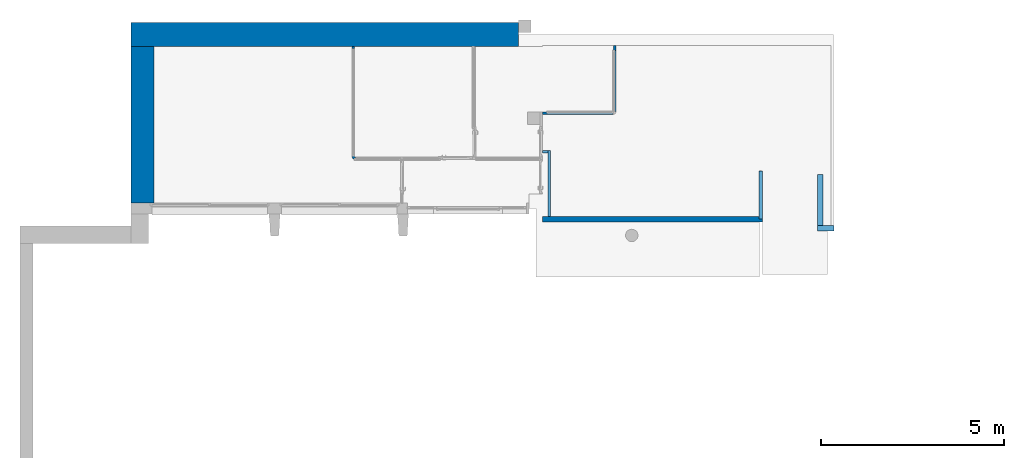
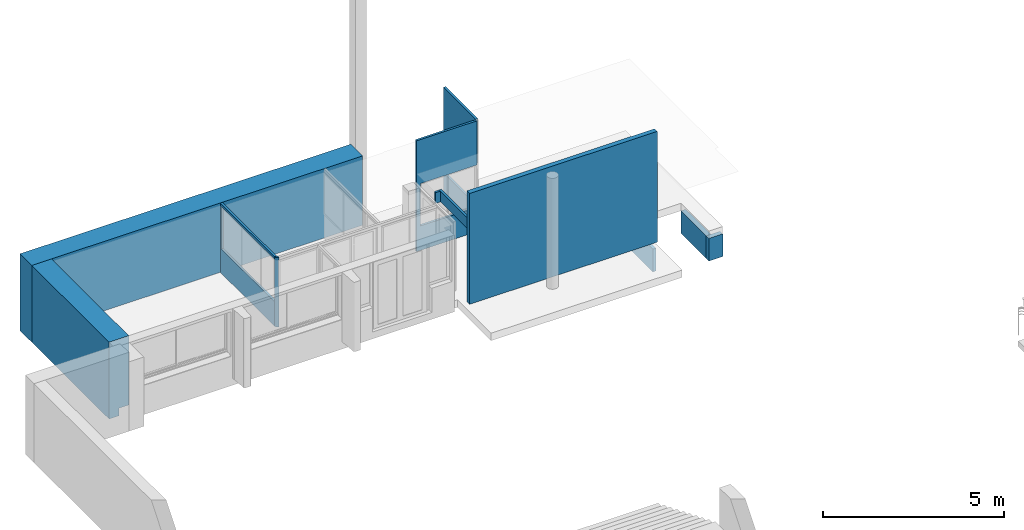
# One storey, part 6 of 19: 12 walls, 3 openings.
"""IFC4 building model written with IfcOpenShell, lengths in metres."""

from ifc_helpers import new_model, entity, si_unit, converted_unit, derived_unit, direction, frame, origin, place, context, subcontext, project, spatial, indexed_curve, outline, extrude, polygons, material, layer, layer_set, type_object, element, save


model = new_model("IFC4")

# Units and contexts
model_context = context("Model", 3, precision=1e-05, world=origin(), true_north=direction((6.12303176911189e-17, 1.0)))
body_context = subcontext(model_context, "Body", "Model", "MODEL_VIEW")
ifc_project = project(units=[si_unit("LENGTHUNIT", "METRE"), si_unit("AREAUNIT", "SQUARE_METRE"), si_unit("VOLUMEUNIT", "CUBIC_METRE"), converted_unit("PLANEANGLEUNIT", "DEGREE", entity("IfcRatioMeasure", 0.0174532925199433), si_unit("PLANEANGLEUNIT", "RADIAN"), dimensions=[0, 0, 0, 0, 0, 0, 0]), si_unit("MASSUNIT", "GRAM", prefix="KILO"), derived_unit("MASSDENSITYUNIT", [(si_unit("MASSUNIT", "GRAM", prefix="KILO"), 1), (si_unit("LENGTHUNIT", "METRE"), -3)]), derived_unit("MOMENTOFINERTIAUNIT", [(si_unit("LENGTHUNIT", "METRE"), 4)]), si_unit("TIMEUNIT", "SECOND"), si_unit("FREQUENCYUNIT", "HERTZ"), si_unit("THERMODYNAMICTEMPERATUREUNIT", "DEGREE_CELSIUS"), derived_unit("THERMALTRANSMITTANCEUNIT", [(si_unit("MASSUNIT", "GRAM", prefix="KILO"), 1), (si_unit("THERMODYNAMICTEMPERATUREUNIT", "KELVIN"), -1), (si_unit("TIMEUNIT", "SECOND"), -3)]), derived_unit("VOLUMETRICFLOWRATEUNIT", [(si_unit("LENGTHUNIT", "METRE"), 3), (si_unit("TIMEUNIT", "SECOND"), -1)]), si_unit("ELECTRICCURRENTUNIT", "AMPERE"), si_unit("ELECTRICVOLTAGEUNIT", "VOLT"), si_unit("POWERUNIT", "WATT"), si_unit("FORCEUNIT", "NEWTON", prefix="KILO"), si_unit("ILLUMINANCEUNIT", "LUX"), si_unit("LUMINOUSFLUXUNIT", "LUMEN"), si_unit("LUMINOUSINTENSITYUNIT", "CANDELA"), derived_unit("USERDEFINED", [(si_unit("MASSUNIT", "GRAM", prefix="KILO"), -1), (si_unit("LENGTHUNIT", "METRE"), -2), (si_unit("TIMEUNIT", "SECOND"), 3), (si_unit("LUMINOUSFLUXUNIT", "LUMEN"), 1)]), derived_unit("LINEARVELOCITYUNIT", [(si_unit("LENGTHUNIT", "METRE"), 1), (si_unit("TIMEUNIT", "SECOND"), -1)]), si_unit("PRESSUREUNIT", "PASCAL"), derived_unit("USERDEFINED", [(si_unit("LENGTHUNIT", "METRE"), -2), (si_unit("MASSUNIT", "GRAM", prefix="KILO"), 1), (si_unit("TIMEUNIT", "SECOND"), -2)]), derived_unit("LINEARFORCEUNIT", [(si_unit("MASSUNIT", "GRAM", prefix="KILO"), 1), (si_unit("LENGTHUNIT", "METRE"), 1), (si_unit("TIMEUNIT", "SECOND"), -2), (si_unit("LENGTHUNIT", "METRE"), -1)]), derived_unit("PLANARFORCEUNIT", [(si_unit("MASSUNIT", "GRAM", prefix="KILO"), 1), (si_unit("LENGTHUNIT", "METRE"), 1), (si_unit("TIMEUNIT", "SECOND"), -2), (si_unit("LENGTHUNIT", "METRE"), -2)])], contexts=[model_context])

# Site, building, storey
site_placement = place(None, origin())
site = spatial("IfcSite", under=ifc_project, at=site_placement, Name="Default", CompositionType="ELEMENT")
building_placement = place(site_placement, origin())
building = spatial("IfcBuilding", under=site, at=building_placement, Name="HOTEL CONSULAIRE BOULOGNE SUR MER", CompositionType="ELEMENT")
storey_placement = place(building_placement, frame((0.0, 0.0, -4.01003075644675)))
storey = spatial("IfcBuildingStorey", under=building, at=storey_placement, Name="SS2", CompositionType="ELEMENT", Elevation=-4.01003075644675)

# Wall, opening
ifc_material = material(Name="Mur par défaut", Category="Divers")
ifc_layer_1 = layer(ifc_material, 0.07, Name="Mur par défaut", Category="Divers")
ifc_layer_set_1 = layer_set([ifc_layer_1], Name="Mur de base:Générique - Int. 70 mm")
wall_type_1 = type_object("IfcWallType", Name="Mur de base:Générique - Int. 70 mm", PredefinedType="NOTDEFINED", material=ifc_layer_set_1)
wall_1_placement = place(storey_placement, frame((-18.6387787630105, -13.45532416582, 0.0), z_axis=(0.0, 0.0, 1.0), x_axis=(0.0, 1.0, 0.0)))
wall_1 = element("IfcWall", 1, at=wall_1_placement, inside=storey, type_object=wall_type_1, material=ifc_layer_set_1, Name="Mur de base:Générique - Int. 70 mm", ObjectType="Mur de base:Générique - Int. 70 mm", PredefinedType="NOTDEFINED", context=body_context, shape_type="Tessellation", body=[
    polygons([(0.0, -0.0349999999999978, 2.34113097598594), (0.0, 0.0350000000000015, 2.34113097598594), (0.0, 0.0350000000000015, 2.25353263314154), (0.0, -0.0349999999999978, 2.25353263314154), (0.0, -0.0349999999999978, 0.0), (2.98900000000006, -0.034999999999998, 0.0), (2.98900000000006, -0.034999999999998, 2.34113097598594), (2.93084809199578, -0.034999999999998, 2.25353263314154), (2.93084809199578, -0.034999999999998, 0.824265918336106), (0.0, -0.0349999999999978, 0.824265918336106), (2.98900000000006, 0.0350000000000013, 0.0), (0.0, 0.0350000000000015, 0.0), (0.0, 0.0350000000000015, 0.824265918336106), (2.93084809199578, 0.0350000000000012, 0.824265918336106), (2.93084809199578, 0.0350000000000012, 2.25353263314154), (2.98900000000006, 0.0350000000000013, 2.34113097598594)], [[[4, 1, 2, 3]], [[5, 10, 13, 12]], [[8, 15, 14, 9]], [[10, 5, 6, 7, 1, 4, 8, 9]], [[11, 12, 13, 14, 15, 3, 2, 16]], [[6, 5, 12, 11]], [[4, 3, 15, 8]], [[1, 7, 16, 2]], [[9, 14, 13, 10]], [[7, 6, 11, 16]]], closed=True),
])
opening_1_placement = place(wall_1_placement, frame((0.0, 0.1874, 0.824265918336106)))
element("IfcOpeningElement", 2, at=opening_1_placement, cuts=wall_1, Name="Mur de base:Générique - Int. 70 mm", ObjectType="Opening", PredefinedType="OPENING", context=body_context, shape_type="SweptSolid", body=[
    extrude(outline(indexed_curve([(-0.714633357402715, -1.46542404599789), (0.714633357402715, -1.46542404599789), (0.714633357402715, 1.46542404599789), (-0.714633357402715, 1.46542404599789), (-0.714633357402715, -1.46542404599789)], self_intersect=False)), frame((1.46542404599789, -0.374799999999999, 0.714633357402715), z_axis=(0.0, 1.0, 0.0), x_axis=(0.0, 0.0, 1.0)), (0.0, 0.0, 1.0), 0.374799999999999),
])

wall_2_placement = place(storey_placement, frame((-11.5089610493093, -12.2361492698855, 0.0), z_axis=(0.0, 0.0, 1.0), x_axis=(0.0, 1.0, 0.0)))
wall_2 = element("IfcWall", 3, at=wall_2_placement, inside=storey, type_object=wall_type_1, material=ifc_layer_set_1, Name="Mur de base:Générique - Int. 70 mm", ObjectType="Mur de base:Générique - Int. 70 mm", PredefinedType="NOTDEFINED", context=body_context, shape_type="Tessellation", body=[
    polygons([(0.0, 0.0350000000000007, 0.0), (0.0, -0.0349999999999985, 0.0), (0.0, -0.0349999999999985, 0.859438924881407), (0.0, 0.0350000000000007, 0.859438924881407), (1.78982510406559, -0.0349999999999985, 0.0), (1.78982510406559, -0.0349999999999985, 3.74003075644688), (0.0, -0.0349999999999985, 3.74003075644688), (0.0, -0.0349999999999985, 2.25353263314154), (1.663152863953, -0.0349999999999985, 2.25353263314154), (1.663152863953, -0.0349999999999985, 0.859438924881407), (1.78982510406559, 0.0350000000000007, 0.0), (1.663152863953, 0.0350000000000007, 0.859438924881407), (1.663152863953, 0.0350000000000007, 2.25353263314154), (0.0, 0.0350000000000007, 2.25353263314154), (0.0, 0.0350000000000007, 3.74003075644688), (1.78982510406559, 0.0350000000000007, 3.74003075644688)], [[[2, 3, 4, 1]], [[8, 7, 15, 14]], [[9, 13, 12, 10]], [[3, 2, 5, 6, 7, 8, 9, 10]], [[11, 1, 4, 12, 13, 14, 15, 16]], [[5, 2, 1, 11]], [[8, 14, 13, 9]], [[5, 11, 16, 6]], [[10, 12, 4, 3]], [[6, 16, 15, 7]]], closed=True),
])
opening_2_placement = place(wall_2_placement, frame((0.0, 0.187400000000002, 0.859438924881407)))
element("IfcOpeningElement", 4, at=opening_2_placement, cuts=wall_2, Name="Mur de base:Générique - Int. 70 mm", ObjectType="Opening", PredefinedType="OPENING", context=body_context, shape_type="SweptSolid", body=[
    extrude(outline(indexed_curve([(-0.697046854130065, -0.831576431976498), (0.697046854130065, -0.831576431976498), (0.697046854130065, 0.8315764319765), (-0.697046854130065, 0.8315764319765), (-0.697046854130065, -0.831576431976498)], self_intersect=False)), frame((0.8315764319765, -0.374800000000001, 0.697046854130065), z_axis=(0.0, 1.0, 0.0), x_axis=(0.0, 0.0, 1.0)), (0.0, 0.0, 1.0), 0.374799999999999),
])

wall_3_placement = place(storey_placement, frame((-13.4753496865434, -12.2801492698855, 0.0)))
wall_3 = element("IfcWall", 5, at=wall_3_placement, inside=storey, type_object=wall_type_1, material=ifc_layer_set_1, Name="Mur de base:Générique - Int. 70 mm", ObjectType="Mur de base:Générique - Int. 70 mm", PredefinedType="NOTDEFINED", context=body_context, shape_type="Tessellation", body=[
    polygons([(1.92238863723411, 0.0350000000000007, 3.74003075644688), (1.92238863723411, -0.0349999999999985, 3.74003075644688), (1.92238863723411, -0.0349999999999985, 2.25353263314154), (1.92238863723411, 0.0350000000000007, 2.25353263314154), (3.63446320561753e-16, -0.0349999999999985, 0.0), (1.92238863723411, -0.0349999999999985, 0.0), (1.92238863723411, -0.0349999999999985, 0.824265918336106), (0.117369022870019, -0.0349999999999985, 0.824265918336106), (0.117369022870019, -0.0349999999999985, 2.25353263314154), (3.63446320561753e-16, -0.0349999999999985, 3.74003075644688), (1.92238863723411, 0.0350000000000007, 0.0), (1.2748752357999e-16, 0.0350000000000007, 0.0), (1.2748752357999e-16, 0.0350000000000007, 2.21931211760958), (1.2748752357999e-16, 0.0350000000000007, 3.74003075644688), (0.117369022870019, 0.0350000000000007, 2.25353263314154), (0.117369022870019, 0.0350000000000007, 0.824265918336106), (1.92238863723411, 0.0350000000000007, 0.824265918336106)], [[[2, 3, 4, 1]], [[7, 6, 11, 17]], [[8, 16, 15, 9]], [[5, 6, 7, 8, 9, 3, 2, 10]], [[17, 11, 12, 13, 14, 1, 4, 15, 16]], [[6, 5, 12, 11]], [[9, 15, 4, 3]], [[8, 7, 17, 16]], [[1, 14, 10, 2]], [[13, 12, 5, 10, 14]]], closed=True),
])
opening_3_placement = place(wall_3_placement, frame((0.117369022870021, -0.187400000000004, 0.824265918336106)))
element("IfcOpeningElement", 6, at=opening_3_placement, cuts=wall_3, Name="Mur de base:Générique - Int. 70 mm", ObjectType="Opening", PredefinedType="OPENING", context=body_context, shape_type="SweptSolid", body=[
    extrude(outline(indexed_curve([(-0.714633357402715, -0.902509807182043), (0.714633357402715, -0.902509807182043), (0.714633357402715, 0.902509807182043), (-0.714633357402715, 0.902509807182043), (-0.714633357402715, -0.902509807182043)], self_intersect=False)), frame((0.902509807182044, 0.0, 0.714633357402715), z_axis=(0.0, 1.0, 0.0), x_axis=(0.0, 0.0, 1.0)), (0.0, 0.0, 1.0), 0.374799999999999),
])

# Walls
wall_4_placement = place(storey_placement, frame((-18.5797787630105, -13.51432416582, 0.0)))
element("IfcWall", 7, at=wall_4_placement, inside=storey, type_object=wall_type_1, material=ifc_layer_set_1, Name="Mur de base:Générique - Int. 70 mm", ObjectType="Mur de base:Générique - Int. 70 mm", PredefinedType="NOTDEFINED", context=body_context, shape_type="SweptSolid", body=[
    extrude(outline(indexed_curve([(-0.0940000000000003, 0.0589999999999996), (-0.0928427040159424, 0.0442951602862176), (-0.0893993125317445, 0.0299524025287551), (-0.0837546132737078, 0.0163248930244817), (-0.0760475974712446, 0.00374818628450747), (-0.0664680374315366, -0.00746803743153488), (-0.0552518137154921, -0.0170475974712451), (-0.0426751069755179, -0.024754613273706), (-0.0290475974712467, -0.0303993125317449), (-0.014704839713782, -0.0338427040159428), (0.0, -0.0350000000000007), (0.0, 0.0349999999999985), (-0.00375442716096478, 0.0352954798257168), (-0.00741640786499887, 0.0361746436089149), (-0.0108957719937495, 0.0376158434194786), (-0.0141068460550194, 0.0395835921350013), (-0.0169705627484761, 0.0420294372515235), (-0.0194164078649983, 0.0448931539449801), (-0.0213841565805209, 0.0481042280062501), (-0.0228253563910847, 0.0515835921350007), (-0.0237045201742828, 0.0552455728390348), (-0.024000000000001, 0.0589999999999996), (-0.0940000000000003, 0.0589999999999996)], self_intersect=False)), origin(), (0.0, 0.0, 1.0), 2.34113097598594),
])
ifc_layer_2 = layer(ifc_material, 0.07, Name="Mur par défaut", Category="Divers")
ifc_layer_set_2 = layer_set([ifc_layer_2], Name="Mur de base:Int. Plâtre 70 mm")
wall_type_2 = type_object("IfcWallType", Name="Mur de base:Int. Plâtre 70 mm", PredefinedType="NOTDEFINED", material=ifc_layer_set_2)
wall_5_placement = place(storey_placement, frame((-13.2893092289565, -15.0965756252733, 2.26703524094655), z_axis=(0.0, 0.0, 1.0), x_axis=(0.0, 1.0, 0.0)))
element("IfcWall", 8, at=wall_5_placement, inside=storey, type_object=wall_type_2, material=ifc_layer_set_2, Name="Mur de base:Int. Plâtre 70 mm", ObjectType="Mur de base:Int. Plâtre 70 mm", PredefinedType="NOTDEFINED", context=body_context, shape_type="SweptSolid", body=[
    extrude(outline(indexed_curve([(1.79674972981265, 0.0350000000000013), (-5.33217416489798e-17, 0.0350000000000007), (5.33217416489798e-17, -0.0350000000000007), (1.79674972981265, -0.0350000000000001), (1.79674972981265, 0.0350000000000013)], self_intersect=False)), origin(), (0.0, 0.0, 1.0), 0.360990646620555),
])
wall_6_placement = place(storey_placement, frame((-13.3243092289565, -13.3348258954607, 2.26703524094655), z_axis=(0.0, 0.0, 1.0), x_axis=(-1.0, 0.0, 0.0)))
element("IfcWall", 9, at=wall_6_placement, inside=storey, type_object=wall_type_2, material=ifc_layer_set_2, Name="Mur de base:Int. Plâtre 70 mm", ObjectType="Mur de base:Int. Plâtre 70 mm", PredefinedType="NOTDEFINED", context=body_context, shape_type="SweptSolid", body=[
    extrude(outline(indexed_curve([(0.151040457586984, 0.0350000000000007), (0.0, 0.0350000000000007), (0.0, -0.0350000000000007), (0.151040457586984, -0.0350000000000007), (0.151040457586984, 0.0350000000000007)], self_intersect=False)), origin(), (0.0, 0.0, 1.0), 0.360990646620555),
])
ifc_layer_3 = layer(ifc_material, 0.1, Name="Mur par défaut", Category="Divers")
ifc_layer_set_3 = layer_set([ifc_layer_3], Name="Mur de base:Générique - Int. 100 mm")
wall_type_3 = type_object("IfcWallType", Name="Mur de base:Générique - Int. 100 mm", PredefinedType="NOTDEFINED", material=ifc_layer_set_3)
wall_7_placement = place(storey_placement, frame((-7.53498856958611, -13.8545756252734, -1.01340592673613), z_axis=(0.0, 0.0, 1.0), x_axis=(0.0, -1.0, 0.0)))
element("IfcWall", 10, at=wall_7_placement, inside=storey, type_object=wall_type_3, material=ifc_layer_set_3, Name="Mur de base:Générique - Int. 100 mm", ObjectType="Mur de base:Générique - Int. 100 mm", PredefinedType="NOTDEFINED", context=body_context, shape_type="SweptSolid", body=[
    extrude(outline(indexed_curve([(1.317, 0.0500000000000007), (-8.71873695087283e-17, 0.0500000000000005), (8.71873695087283e-17, -0.0500000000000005), (1.317, -0.0500000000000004), (1.317, 0.0500000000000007)], self_intersect=False)), origin(), (0.0, 0.0, 1.0), 0.763405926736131),
])
ifc_layer_4 = layer(ifc_material, 0.15, Name="Mur par défaut", Category="Divers")
ifc_layer_set_4 = layer_set([ifc_layer_4], Name="Mur de base:Générique - Int. 150 mm")
wall_type_4 = type_object("IfcWallType", Name="Mur de base:Générique - Int. 150 mm", PredefinedType="NOTDEFINED", material=ifc_layer_set_4)
wall_8_placement = place(storey_placement, frame((-13.4753496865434, -15.1715756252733, 0.0)))
element("IfcWall", 11, at=wall_8_placement, inside=storey, type_object=wall_type_4, material=ifc_layer_set_4, Name="Mur de base:Générique - Int. 150 mm", ObjectType="Mur de base:Générique - Int. 150 mm", PredefinedType="NOTDEFINED", context=body_context, shape_type="SweptSolid", body=[
    extrude(outline(indexed_curve([(5.99036111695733, 0.0750000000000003), (-2.44037145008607e-16, 0.0750000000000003), (2.44037145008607e-16, -0.0750000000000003), (5.99036111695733, -0.0750000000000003), (5.99036111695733, 0.0750000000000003)], self_intersect=False)), origin(), (0.0, 0.0, 1.0), 3.74003075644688),
])
wall_9_placement = place(storey_placement, frame((-5.98241197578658, -15.4202021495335, -1.01340592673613)))
element("IfcWall", 12, at=wall_9_placement, inside=storey, type_object=wall_type_4, material=ifc_layer_set_4, Name="Mur de base:Générique - Int. 150 mm", ObjectType="Mur de base:Générique - Int. 150 mm", PredefinedType="NOTDEFINED", context=body_context, shape_type="SweptSolid", body=[
    extrude(outline(indexed_curve([(0.445423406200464, 0.0750000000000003), (0.0, 0.0750000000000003), (0.0, -0.0750000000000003), (0.445423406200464, -0.0750000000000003), (0.445423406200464, 0.0750000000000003)], self_intersect=False)), origin(), (0.0, 0.0, 1.0), 0.763405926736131),
])
wall_10_placement = place(storey_placement, frame((-5.90741197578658, -13.9492021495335, -1.01340592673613), z_axis=(0.0, 0.0, 1.0), x_axis=(0.0, -1.0, 0.0)))
element("IfcWall", 13, at=wall_10_placement, inside=storey, type_object=wall_type_4, material=ifc_layer_set_4, Name="Mur de base:Générique - Int. 150 mm", ObjectType="Mur de base:Générique - Int. 150 mm", PredefinedType="NOTDEFINED", context=body_context, shape_type="SweptSolid", body=[
    extrude(outline(indexed_curve([(1.396, 0.0750000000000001), (-1.06477006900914e-16, 0.0750000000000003), (1.06477006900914e-16, -0.0750000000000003), (1.396, -0.0750000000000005), (1.396, 0.0750000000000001)], self_intersect=False)), origin(), (0.0, 0.0, 1.0), 0.763405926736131),
])
ifc_layer_5 = layer(ifc_material, 0.65, Name="Mur par défaut", Category="Divers")
ifc_layer_set_5 = layer_set([ifc_layer_5], Name="Mur de base:Générique - Ext.650")
wall_type_5 = type_object("IfcWallType", Name="Mur de base:Générique - Ext.650", PredefinedType="NOTDEFINED", material=ifc_layer_set_5)
wall_11_placement = place(storey_placement, frame((-24.6922313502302, -10.1413241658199, -0.25)))
element("IfcWall", 14, at=wall_11_placement, inside=storey, type_object=wall_type_5, material=ifc_layer_set_5, Name="Mur de base:Générique - Ext.650", ObjectType="Mur de base:Générique - Ext.650", PredefinedType="NOTDEFINED", context=body_context, shape_type="Tessellation", body=[
    polygons([(10.5582506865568, -0.325, 2.59114570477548), (9.39003696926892, -0.325, 2.59114570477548), (9.32003696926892, -0.325, 2.59114570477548), (6.08845258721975, -0.325, 2.59114570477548), (6.01845258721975, -0.325, 2.59114570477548), (0.630000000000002, -0.325, 2.59114570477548), (2.46291989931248e-15, -0.325, 2.59114570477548), (2.46291989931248e-15, -0.325, 0.0), (0.315000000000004, -0.325000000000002, 0.0), (0.315, -0.325000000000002, 0.25), (0.630000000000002, -0.325, 0.25), (6.01845258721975, -0.325, 0.25), (6.08845258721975, -0.325, 0.25), (9.32003696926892, -0.325, 0.25), (9.39003696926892, -0.325, 0.25), (10.5582506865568, -0.325, 0.25), (10.5582506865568, 0.325, 0.0), (-1.11048605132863e-16, 0.325, 0.0), (-1.11048605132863e-16, 0.325, 2.59114570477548), (10.5582506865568, 0.325, 2.59114570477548), (10.5582506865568, 0.056691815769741, 0.0), (10.5582506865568, -2.16573425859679e-15, 0.0), (0.315000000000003, -2.16573425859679e-15, 0.0), (10.5582506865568, -2.16573425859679e-15, 0.25), (0.315000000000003, -2.16573425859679e-15, 0.25)], [[[8, 9, 10, 11, 12, 13, 14, 15, 16, 1, 2, 3, 4, 5, 6, 7]], [[25, 23, 22, 24]], [[20, 17, 18, 19]], [[8, 18, 17, 21, 22, 23, 9]], [[15, 14, 13, 12, 11, 10, 25, 24, 16]], [[1, 16, 24, 22, 21, 17, 20]], [[10, 9, 23, 25]], [[2, 1, 20, 19, 7, 6, 5, 4, 3]], [[19, 18, 8, 7]]], closed=True),
])
ifc_layer_6 = layer(ifc_material, 0.63, Name="Mur par défaut", Category="Divers")
ifc_layer_set_6 = layer_set([ifc_layer_6], Name="Mur de base:Générique - Ext.630")
wall_type_6 = type_object("IfcWallType", Name="Mur de base:Générique - Ext.630", PredefinedType="NOTDEFINED", material=ifc_layer_set_6)
wall_12_placement = place(storey_placement, frame((-24.3772313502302, -14.7375756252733, -0.25), z_axis=(0.0, 0.0, 1.0), x_axis=(0.0, 1.0, 0.0)))
element("IfcWall", 15, at=wall_12_placement, inside=storey, type_object=wall_type_6, material=ifc_layer_set_6, Name="Mur de base:Générique - Ext.630", ObjectType="Mur de base:Générique - Ext.630", PredefinedType="NOTDEFINED", context=body_context, shape_type="Tessellation", body=[
    polygons([(4.27125145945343, -0.315000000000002, 2.59114570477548), (0.0, -0.315, 2.59114570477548), (0.0, -0.315, 0.25), (4.27125145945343, -0.315000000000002, 0.25), (4.27125145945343, 0.314999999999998, 0.0), (2.16573425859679e-15, 0.315, 0.0), (2.16573425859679e-15, 0.315, 2.59114570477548), (4.27125145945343, 0.314999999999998, 2.59114570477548), (4.27125145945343, -3.90308416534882e-15, 0.0), (0.0, -2.13592319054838e-15, 0.0), (4.27125145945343, -3.90308416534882e-15, 0.25), (0.0, -2.13592319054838e-15, 0.25)], [[[2, 3, 4, 1]], [[11, 12, 10, 9]], [[8, 5, 6, 7]], [[9, 10, 6, 5]], [[12, 11, 4, 3]], [[2, 1, 8, 7]], [[11, 9, 5, 8, 1, 4]], [[12, 3, 2, 7, 6, 10]]], closed=True),
])

save(model, "model.ifc")
